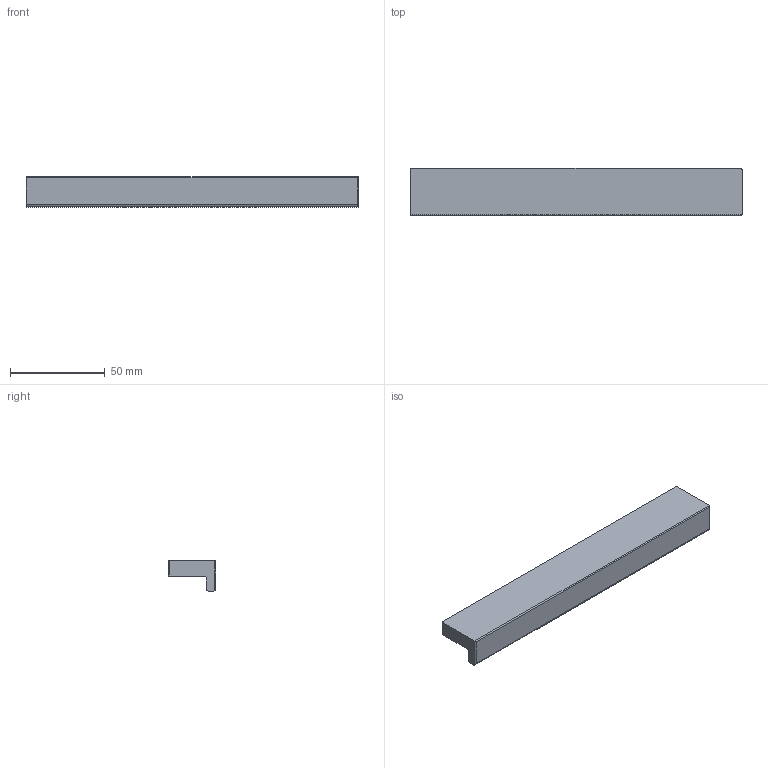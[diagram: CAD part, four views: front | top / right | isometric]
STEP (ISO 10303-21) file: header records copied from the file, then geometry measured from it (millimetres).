
FILE_DESCRIPTION( ( '' ), '1' );
FILE_NAME( 'D:/1.AUTOCAD EXPORT/Group 10/sheet_10_1/9113297.stp', '2013-10-21T08:18:34', ( '' ), ( '' ), ' ', ' ', ' ' );
FILE_SCHEMA( ( 'automotive_design' ) );
Length unit declared in the file: millimetre
Products named in the file (1): 1
Bounding box: 175 x 25 x 16 mm (x, y, z)
Volume: 41605.4 mm3; surface area: 14731.6 mm2
Topology: 1 solids, 1 shells, 22 faces, 52 edges, 34 vertices
Faces by surface type: cylinder 12, plane 10
Entity records: 1280 total; most frequent: CARTESIAN_POINT 123, DIRECTION 116, STYLED_ITEM 109, PRESENTATION_STYLE_ASSIGNMENT 109, COLOUR_RGB 109, ORIENTED_EDGE 104, EDGE_CURVE 52, CURVE_STYLE 52
